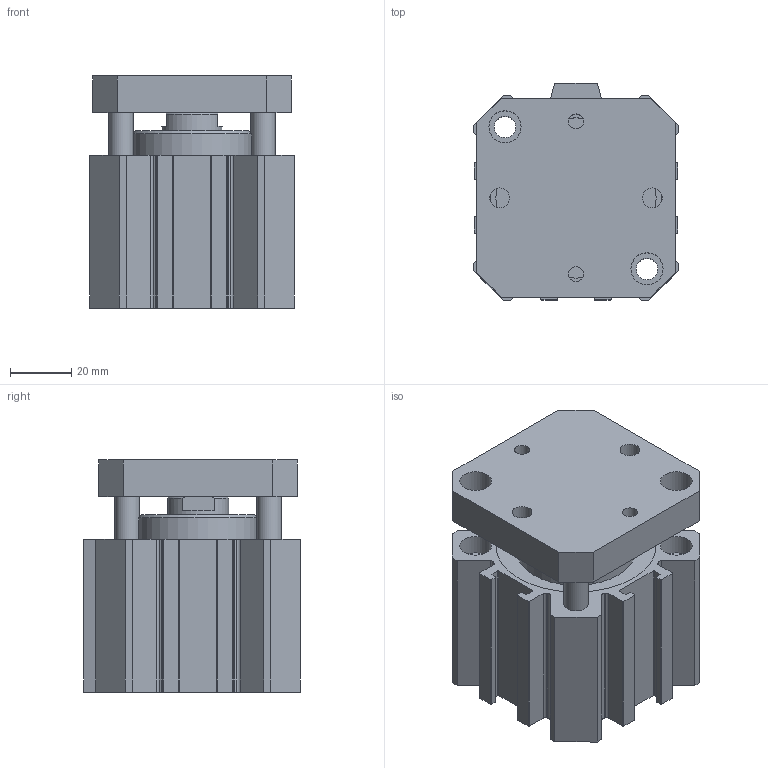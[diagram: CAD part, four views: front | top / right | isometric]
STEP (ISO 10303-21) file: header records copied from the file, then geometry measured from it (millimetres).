
FILE_DESCRIPTION(/* description */ (''),/* implementation_level */ '2;1');
FILE_NAME(/* name */ 'I:\Area Tecnica\Disegni\VARIE-3D\Componenti\1500\Ø50\15##_50_####_#\1501_50_0015_AR.stp',/* time_stamp */ '2016-08-24T12:19:29+02:00',/* author */ ('Maniean1'),/* organization */ ('Pneumax S.p.A.'),/* preprocessor_version */ 'ST-DEVELOPER v15.2',/* originating_system */ 'Autodesk Inventor 2014',/* authorisation */ '');
FILE_SCHEMA (('AUTOMOTIVE_DESIGN { 1 0 10303 214 3 1 1 }'));
Length unit declared in the file: millimetre
Products named in the file (3): C_1501_50_0015_AR; S_1501_50_0015_AR; 1501_50_0015_AR
Bounding box: 67 x 71 x 76 mm (x, y, z)
Volume: 206458.7 mm3; surface area: 65829.1 mm2
Topology: 2 solids, 2 shells, 185 faces, 481 edges, 322 vertices
Faces by surface type: plane 94, cylinder 86, cone 5
Full cylindrical faces by diameter (mm): 4.917 x2, 6.5 x2, 7 x4, 8 x4, 8.566 x2, 10.5 x10, 20 x2, 39 x2, 50 x2, 52.5 x2
Entity records: 5732 total; most frequent: DIRECTION 994, CARTESIAN_POINT 950, ORIENTED_EDGE 876, EDGE_CURVE 438, AXIS2_PLACEMENT_3D 370, VERTEX_POINT 314, EDGE_LOOP 262, LINE 254
